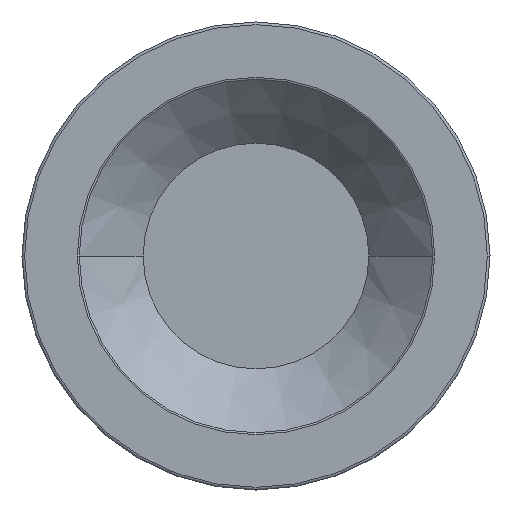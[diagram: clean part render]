
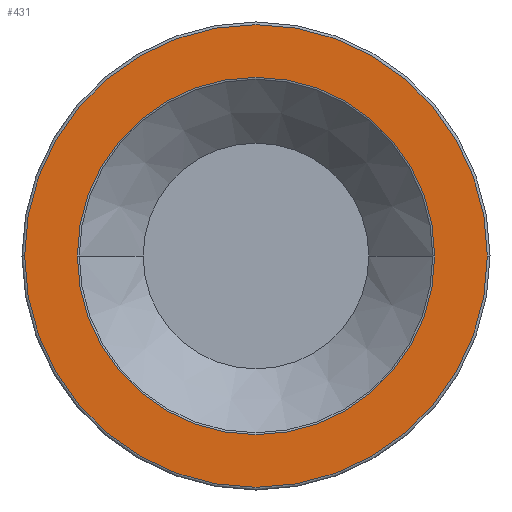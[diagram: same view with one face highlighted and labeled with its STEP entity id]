
A CAD part, front view. The second image highlights one B-rep face of the part: STEP entity #431.
In plain terms, the highlighted planar face has unit normal (0, -1, 0).
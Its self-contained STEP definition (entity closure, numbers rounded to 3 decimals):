
#21=CARTESIAN_POINT('',(0.,0.,0.));
#22=DIRECTION('',(0.,1.,0.));
#23=DIRECTION('',(-1.,0.,0.));
#24=AXIS2_PLACEMENT_3D('',#21,#22,#23);
#30=CARTESIAN_POINT('',(0.,0.,0.));
#31=DIRECTION('',(0.,1.,0.));
#32=DIRECTION('',(1.,0.,0.));
#33=AXIS2_PLACEMENT_3D('',#30,#31,#32);
#38=CARTESIAN_POINT('',(0.,0.,0.));
#39=DIRECTION('',(0.,-1.,0.));
#40=DIRECTION('',(1.,0.,0.));
#41=AXIS2_PLACEMENT_3D('',#38,#39,#40);
#46=CARTESIAN_POINT('',(0.,0.,0.));
#47=DIRECTION('',(0.,-1.,0.));
#48=DIRECTION('',(-1.,0.,0.));
#49=AXIS2_PLACEMENT_3D('',#46,#47,#48);
#378=CARTESIAN_POINT('',(-33.705,0.,0.));
#379=CARTESIAN_POINT('',(33.705,0.,0.));
#380=VERTEX_POINT('',#378);
#381=VERTEX_POINT('',#379);
#398=CARTESIAN_POINT('',(43.65,0.,0.));
#399=CARTESIAN_POINT('',(-43.65,0.,0.));
#400=VERTEX_POINT('',#398);
#401=VERTEX_POINT('',#399);
#414=CARTESIAN_POINT('',(0.,0.,0.));
#415=DIRECTION('',(0.,1.,0.));
#416=DIRECTION('',(1.,0.,0.));
#417=AXIS2_PLACEMENT_3D('',#414,#415,#416);
#418=PLANE('',#417);
#420=ORIENTED_EDGE('',*,*,#419,.F.);
#422=ORIENTED_EDGE('',*,*,#421,.F.);
#423=EDGE_LOOP('',(#420,#422));
#424=FACE_OUTER_BOUND('',#423,.F.);
#426=ORIENTED_EDGE('',*,*,#425,.F.);
#428=ORIENTED_EDGE('',*,*,#427,.F.);
#429=EDGE_LOOP('',(#426,#428));
#430=FACE_BOUND('',#429,.F.);
#431=ADVANCED_FACE('',(#424,#430),#418,.F.);
#25=CIRCLE('',#24,33.705);
#34=CIRCLE('',#33,33.705);
#42=CIRCLE('',#41,43.65);
#50=CIRCLE('',#49,43.65);
#419=EDGE_CURVE('',#400,#401,#42,.T.);
#421=EDGE_CURVE('',#401,#400,#50,.T.);
#425=EDGE_CURVE('',#380,#381,#25,.T.);
#427=EDGE_CURVE('',#381,#380,#34,.T.);
